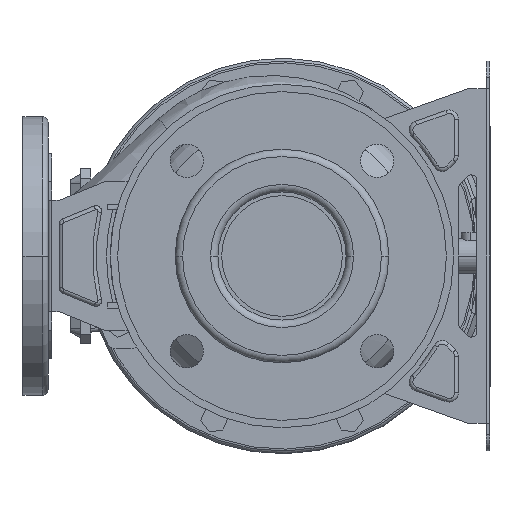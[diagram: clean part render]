
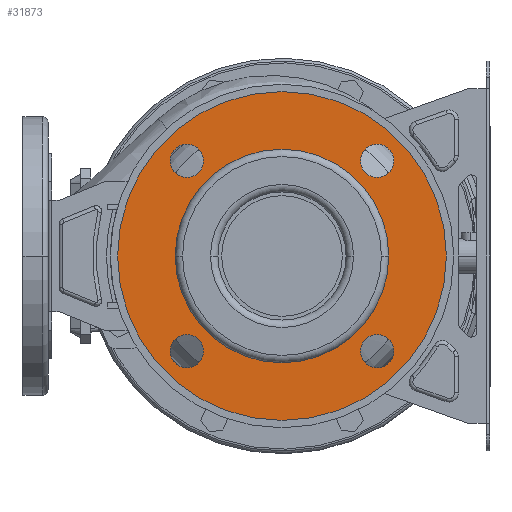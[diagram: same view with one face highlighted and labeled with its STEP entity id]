
A CAD part, front view. The second image highlights one B-rep face of the part: STEP entity #31873.
In plain terms, the highlighted planar face has unit normal (0, -1, 0) as drawn and (-1, 0, 0) by its records, which use the part's own axes.
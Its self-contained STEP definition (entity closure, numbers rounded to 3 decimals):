
#31206=CARTESIAN_POINT('',(12.,0.,0.));
#31207=DIRECTION('',(-1.,0.,0.));
#31208=DIRECTION('',(0.,1.,0.));
#31209=AXIS2_PLACEMENT_3D('',#31206,#31207,#31208);
#31214=CARTESIAN_POINT('',(12.,0.,0.));
#31215=DIRECTION('',(1.,0.,0.));
#31216=DIRECTION('',(0.,1.,0.));
#31217=AXIS2_PLACEMENT_3D('',#31214,#31215,#31216);
#31222=CARTESIAN_POINT('',(12.,-51.265,51.265));
#31223=DIRECTION('',(1.,0.,0.));
#31224=DIRECTION('',(0.,1.,0.));
#31225=AXIS2_PLACEMENT_3D('',#31222,#31223,#31224);
#31230=CARTESIAN_POINT('',(12.,-51.265,51.265));
#31231=DIRECTION('',(1.,0.,0.));
#31232=DIRECTION('',(0.,-1.,0.));
#31233=AXIS2_PLACEMENT_3D('',#31230,#31231,#31232);
#31238=CARTESIAN_POINT('',(12.,-51.265,-51.265));
#31239=DIRECTION('',(1.,0.,0.));
#31240=DIRECTION('',(0.,0.,1.));
#31241=AXIS2_PLACEMENT_3D('',#31238,#31239,#31240);
#31246=CARTESIAN_POINT('',(12.,-51.265,-51.265));
#31247=DIRECTION('',(1.,0.,0.));
#31248=DIRECTION('',(0.,0.,-1.));
#31249=AXIS2_PLACEMENT_3D('',#31246,#31247,#31248);
#31254=CARTESIAN_POINT('',(12.,51.265,-51.265));
#31255=DIRECTION('',(1.,0.,0.));
#31256=DIRECTION('',(0.,-1.,0.));
#31257=AXIS2_PLACEMENT_3D('',#31254,#31255,#31256);
#31262=CARTESIAN_POINT('',(12.,51.265,-51.265));
#31263=DIRECTION('',(1.,0.,0.));
#31264=DIRECTION('',(0.,1.,0.));
#31265=AXIS2_PLACEMENT_3D('',#31262,#31263,#31264);
#31270=CARTESIAN_POINT('',(12.,51.265,51.265));
#31271=DIRECTION('',(1.,0.,0.));
#31272=DIRECTION('',(0.,0.,-1.));
#31273=AXIS2_PLACEMENT_3D('',#31270,#31271,#31272);
#31278=CARTESIAN_POINT('',(12.,51.265,51.265));
#31279=DIRECTION('',(1.,0.,0.));
#31280=DIRECTION('',(0.,0.,1.));
#31281=AXIS2_PLACEMENT_3D('',#31278,#31279,#31280);
#31286=CARTESIAN_POINT('',(12.,0.,0.));
#31287=DIRECTION('',(1.,0.,0.));
#31288=DIRECTION('',(0.,1.,0.));
#31289=AXIS2_PLACEMENT_3D('',#31286,#31287,#31288);
#31308=CARTESIAN_POINT('',(12.,0.,0.));
#31309=DIRECTION('',(-1.,0.,0.));
#31310=DIRECTION('',(0.,1.,0.));
#31311=AXIS2_PLACEMENT_3D('',#31308,#31309,#31310);
#31473=CARTESIAN_POINT('',(12.,88.5,0.));
#31475=VERTEX_POINT('',#31473);
#31476=CARTESIAN_POINT('',(12.,57.5,0.));
#31478=VERTEX_POINT('',#31476);
#31505=CARTESIAN_POINT('',(12.,-88.5,0.));
#31507=VERTEX_POINT('',#31505);
#31508=CARTESIAN_POINT('',(12.,-57.5,0.));
#31510=VERTEX_POINT('',#31508);
#31520=CARTESIAN_POINT('',(12.,-42.265,51.265));
#31521=CARTESIAN_POINT('',(12.,-60.265,51.265));
#31522=VERTEX_POINT('',#31520);
#31523=VERTEX_POINT('',#31521);
#31528=CARTESIAN_POINT('',(12.,-51.265,-42.265));
#31529=CARTESIAN_POINT('',(12.,-51.265,-60.265));
#31530=VERTEX_POINT('',#31528);
#31531=VERTEX_POINT('',#31529);
#31536=CARTESIAN_POINT('',(12.,42.265,-51.265));
#31537=CARTESIAN_POINT('',(12.,60.265,-51.265));
#31538=VERTEX_POINT('',#31536);
#31539=VERTEX_POINT('',#31537);
#31544=CARTESIAN_POINT('',(12.,51.265,42.265));
#31545=CARTESIAN_POINT('',(12.,51.265,60.265));
#31546=VERTEX_POINT('',#31544);
#31547=VERTEX_POINT('',#31545);
#31834=CARTESIAN_POINT('',(12.,0.,0.));
#31835=DIRECTION('',(1.,0.,0.));
#31836=DIRECTION('',(0.,-1.,0.));
#31837=AXIS2_PLACEMENT_3D('',#31834,#31835,#31836);
#31838=PLANE('',#31837);
#31839=ORIENTED_EDGE('',*,*,#31827,.F.);
#31840=ORIENTED_EDGE('',*,*,#31816,.T.);
#31841=EDGE_LOOP('',(#31839,#31840));
#31842=FACE_OUTER_BOUND('',#31841,.F.);
#31844=ORIENTED_EDGE('',*,*,#31843,.F.);
#31846=ORIENTED_EDGE('',*,*,#31845,.T.);
#31847=EDGE_LOOP('',(#31844,#31846));
#31848=FACE_BOUND('',#31847,.F.);
#31850=ORIENTED_EDGE('',*,*,#31849,.F.);
#31852=ORIENTED_EDGE('',*,*,#31851,.F.);
#31853=EDGE_LOOP('',(#31850,#31852));
#31854=FACE_BOUND('',#31853,.F.);
#31856=ORIENTED_EDGE('',*,*,#31855,.F.);
#31858=ORIENTED_EDGE('',*,*,#31857,.F.);
#31859=EDGE_LOOP('',(#31856,#31858));
#31860=FACE_BOUND('',#31859,.F.);
#31862=ORIENTED_EDGE('',*,*,#31861,.F.);
#31864=ORIENTED_EDGE('',*,*,#31863,.F.);
#31865=EDGE_LOOP('',(#31862,#31864));
#31866=FACE_BOUND('',#31865,.F.);
#31868=ORIENTED_EDGE('',*,*,#31867,.F.);
#31870=ORIENTED_EDGE('',*,*,#31869,.F.);
#31871=EDGE_LOOP('',(#31868,#31870));
#31872=FACE_BOUND('',#31871,.F.);
#31210=CIRCLE('',#31209,88.5);
#31218=CIRCLE('',#31217,88.5);
#31226=CIRCLE('',#31225,9.);
#31234=CIRCLE('',#31233,9.);
#31242=CIRCLE('',#31241,9.);
#31250=CIRCLE('',#31249,9.);
#31258=CIRCLE('',#31257,9.);
#31266=CIRCLE('',#31265,9.);
#31274=CIRCLE('',#31273,9.);
#31282=CIRCLE('',#31281,9.);
#31290=CIRCLE('',#31289,57.5);
#31312=CIRCLE('',#31311,57.5);
#31816=EDGE_CURVE('',#31475,#31507,#31218,.T.);
#31827=EDGE_CURVE('',#31475,#31507,#31210,.T.);
#31843=EDGE_CURVE('',#31478,#31510,#31290,.T.);
#31845=EDGE_CURVE('',#31478,#31510,#31312,.T.);
#31849=EDGE_CURVE('',#31522,#31523,#31226,.T.);
#31851=EDGE_CURVE('',#31523,#31522,#31234,.T.);
#31855=EDGE_CURVE('',#31530,#31531,#31242,.T.);
#31857=EDGE_CURVE('',#31531,#31530,#31250,.T.);
#31861=EDGE_CURVE('',#31538,#31539,#31258,.T.);
#31863=EDGE_CURVE('',#31539,#31538,#31266,.T.);
#31867=EDGE_CURVE('',#31546,#31547,#31274,.T.);
#31869=EDGE_CURVE('',#31547,#31546,#31282,.T.);
#31873=ADVANCED_FACE('',(#31842,#31848,#31854,#31860,#31866,#31872),#31838,.F.);
